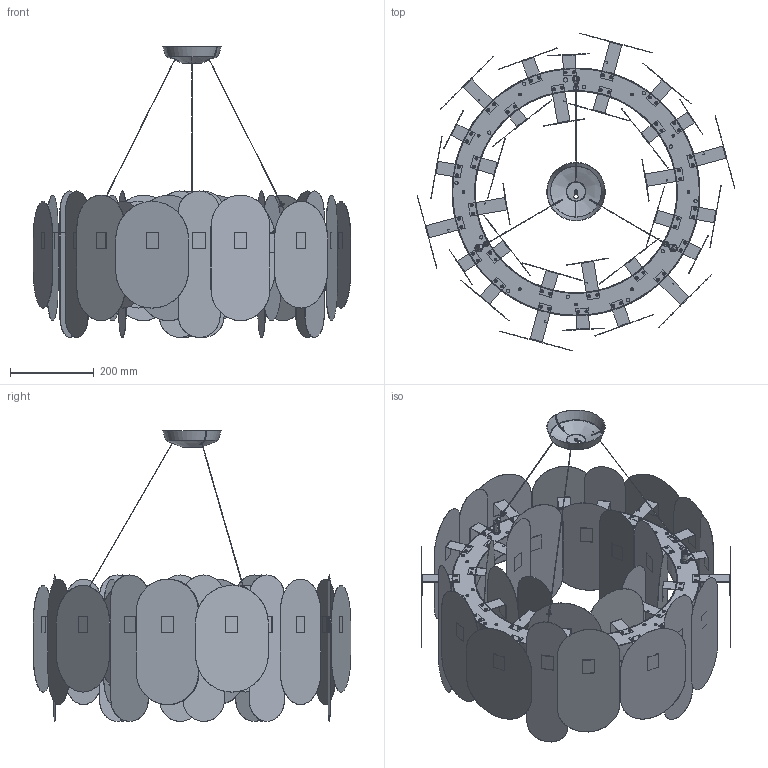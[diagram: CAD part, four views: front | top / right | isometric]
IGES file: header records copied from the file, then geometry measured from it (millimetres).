
Global section: file name: Innermost_Panel 75; native system: unknown; preprocessor: unknown; author: aliceSSBN6; organization: unknown; date: 20180702.115120; units: millimetre
Bounding box: 759.63 x 759.63 x 695.02 mm (x, y, z)
Surface area: 3250703.1 mm2 (no closed solid volume)
Topology: 0 solids, 0 shells, 3391 faces, 30583 edges, 30565 vertices
Faces by surface type: bspline 1901, revolution 1490
